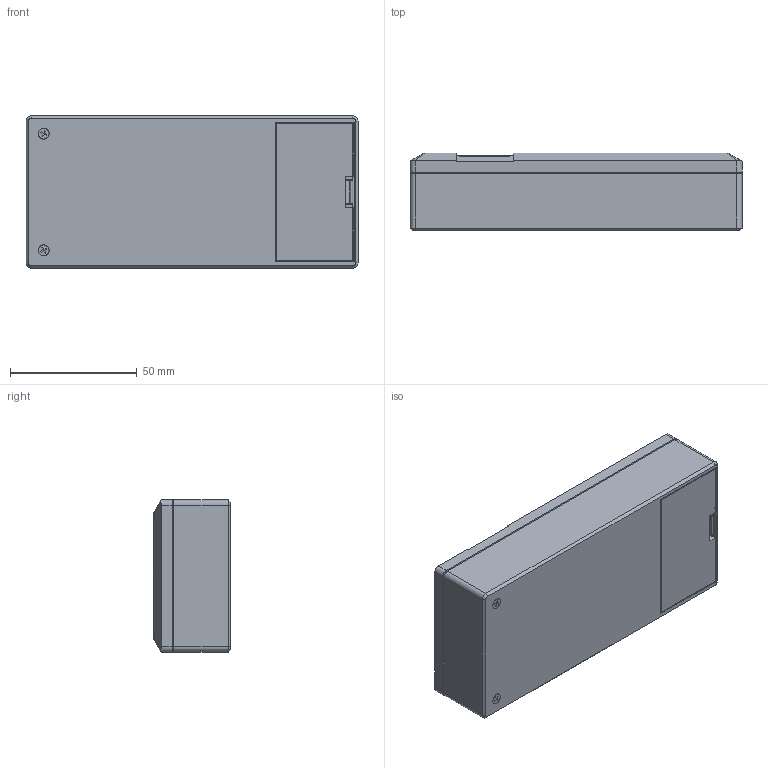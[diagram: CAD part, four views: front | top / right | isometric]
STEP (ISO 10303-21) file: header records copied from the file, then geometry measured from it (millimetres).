
FILE_DESCRIPTION (( 'STEP AP214' ), '1' );
FILE_NAME ('Conjunt PP26.STEP', '2018-07-10T12:04:51', ( 'aaa' ), ( '' ), 'SwSTEP 2.0', 'SolidWorks 2013', '' );
FILE_SCHEMA (( 'AUTOMOTIVE_DESIGN' ));
Length unit declared in the file: millimetre
Products named in the file (9): Cargol 2,2x13 DIN 7982 PP26; Cargol 2,2x6,5 DIN7982 PP26; Cargol 2,2x16  DIN7982 PP26; Conector electric PP26; Tapeta visor PP26; Tapeta PP26; Tapa PP26; Cos PP26; Conjunt PP26
Assembly tree (13 placements, depth 2):
  Conjunt PP26
    Cos PP26
    Tapa PP26
    Tapeta PP26
    Tapeta visor PP26
    Conector electric PP26  x4
    Cargol 2,2x16  DIN7982 PP26  x2
    Cargol 2,2x6,5 DIN7982 PP26  x2
    Cargol 2,2x13 DIN 7982 PP26
Bounding box: 131 x 30.6 x 60 mm (x, y, z)
Volume: 68026.2 mm3; surface area: 66967.5 mm2
Topology: 13 solids, 13 shells, 968 faces, 2340 edges, 1415 vertices
Faces by surface type: plane 477, cone 380, cylinder 106, bspline 5
Entity records: 21654 total; most frequent: CARTESIAN_POINT 4044, DIRECTION 3504, ORIENTED_EDGE 3468, EDGE_CURVE 1734, VECTOR 1334, LINE 1334, AXIS2_PLACEMENT_3D 1085, VERTEX_POINT 1073
